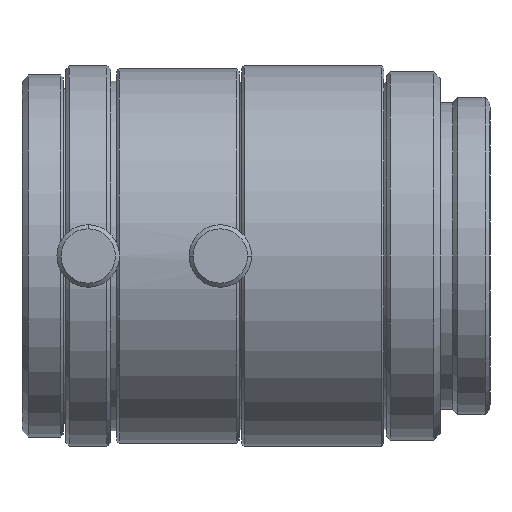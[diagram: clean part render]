
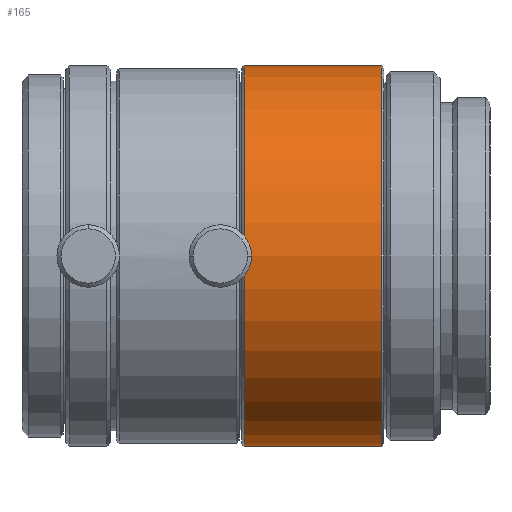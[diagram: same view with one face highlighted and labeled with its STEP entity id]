
A CAD part, front view. The second image highlights one B-rep face of the part: STEP entity #165.
In plain terms, the highlighted cylindrical face has radius 15.25 mm (diameter 30.5 mm), a partial arc.
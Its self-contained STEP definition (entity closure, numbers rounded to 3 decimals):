
#105 = CYLINDRICAL_SURFACE ( 'NONE', #1254, 15.25 ) ;
#162 = EDGE_LOOP ( 'NONE', ( #1866, #489, #2073, #214 ) ) ;
#165 = ADVANCED_FACE ( 'NONE', ( #2492 ), #105, .T. ) ;
#171 = AXIS2_PLACEMENT_3D ( 'NONE', #699, #674, #613 ) ;
#214 = ORIENTED_EDGE ( 'NONE', *, *, #299, .F. ) ;
#299 = EDGE_CURVE ( 'NONE', #1937, #2022, #3039, .T. ) ;
#381 = CIRCLE ( 'NONE', #1339, 15.25 ) ;
#489 = ORIENTED_EDGE ( 'NONE', *, *, #1387, .T. ) ;
#613 = DIRECTION ( 'NONE',  ( 0., 0., 1. ) ) ;
#674 = DIRECTION ( 'NONE',  ( -1., 0., 0. ) ) ;
#699 = CARTESIAN_POINT ( 'NONE',  ( -33.226, 0., 0. ) ) ;
#953 = VERTEX_POINT ( 'NONE', #3794 ) ;
#1075 = CARTESIAN_POINT ( 'NONE',  ( -53.509, 0., -15.25 ) ) ;
#1254 = AXIS2_PLACEMENT_3D ( 'NONE', #1662, #1835, #1536 ) ;
#1339 = AXIS2_PLACEMENT_3D ( 'NONE', #2346, #2360, #2882 ) ;
#1387 = EDGE_CURVE ( 'NONE', #953, #1986, #381, .T. ) ;
#1536 = DIRECTION ( 'NONE',  ( 0., 0., 1. ) ) ;
#1575 = DIRECTION ( 'NONE',  ( -1., 0., 0. ) ) ;
#1662 = CARTESIAN_POINT ( 'NONE',  ( -53.509, 0., 0. ) ) ;
#1743 = EDGE_CURVE ( 'NONE', #1986, #2022, #2253, .T. ) ;
#1833 = CARTESIAN_POINT ( 'NONE',  ( -33.226, 0., 15.25 ) ) ;
#1835 = DIRECTION ( 'NONE',  ( -1., 0., 0. ) ) ;
#1866 = ORIENTED_EDGE ( 'NONE', *, *, #2273, .F. ) ;
#1937 = VERTEX_POINT ( 'NONE', #3858 ) ;
#1986 = VERTEX_POINT ( 'NONE', #3586 ) ;
#2022 = VERTEX_POINT ( 'NONE', #1833 ) ;
#2073 = ORIENTED_EDGE ( 'NONE', *, *, #1743, .T. ) ;
#2253 = LINE ( 'NONE', #3054, #2938 ) ;
#2273 = EDGE_CURVE ( 'NONE', #953, #1937, #2277, .T. ) ;
#2277 = LINE ( 'NONE', #1075, #3761 ) ;
#2346 = CARTESIAN_POINT ( 'NONE',  ( -22.226, 0., 0. ) ) ;
#2360 = DIRECTION ( 'NONE',  ( -1., 0., 0. ) ) ;
#2492 = FACE_OUTER_BOUND ( 'NONE', #162, .T. ) ;
#2874 = DIRECTION ( 'NONE',  ( -1., 0., 0. ) ) ;
#2882 = DIRECTION ( 'NONE',  ( 0., 0., 1. ) ) ;
#2938 = VECTOR ( 'NONE', #1575, 1000. ) ;
#3039 = CIRCLE ( 'NONE', #171, 15.25 ) ;
#3054 = CARTESIAN_POINT ( 'NONE',  ( -53.509, 0., 15.25 ) ) ;
#3586 = CARTESIAN_POINT ( 'NONE',  ( -22.226, 0., 15.25 ) ) ;
#3761 = VECTOR ( 'NONE', #2874, 1000. ) ;
#3794 = CARTESIAN_POINT ( 'NONE',  ( -22.226, 0., -15.25 ) ) ;
#3858 = CARTESIAN_POINT ( 'NONE',  ( -33.226, 0., -15.25 ) ) ;
